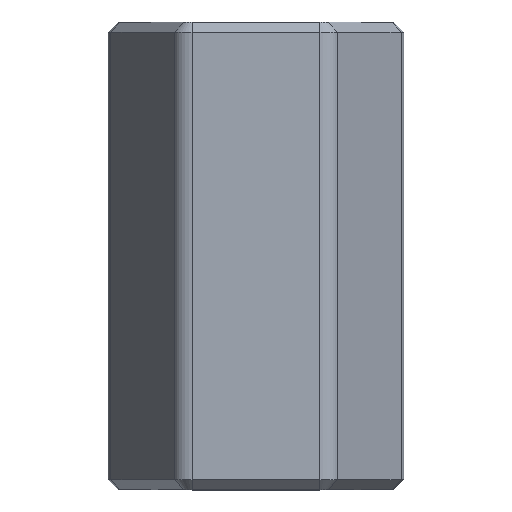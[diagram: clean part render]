
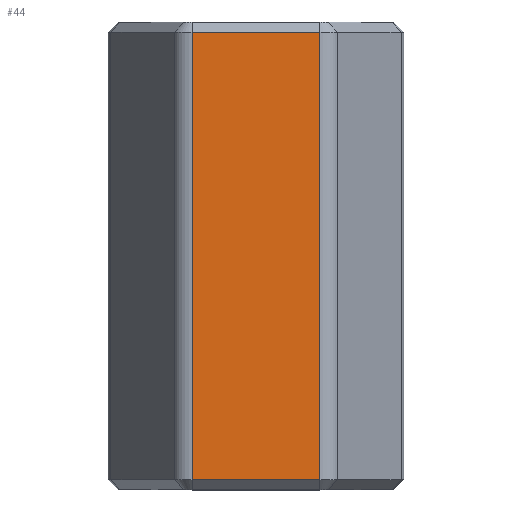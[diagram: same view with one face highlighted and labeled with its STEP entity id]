
A CAD part, top view. The second image highlights one B-rep face of the part: STEP entity #44.
In plain terms, the highlighted planar face has unit normal (0, 0, 1).
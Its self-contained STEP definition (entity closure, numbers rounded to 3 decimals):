
#44=ADVANCED_FACE('',(#135),#134,.T.);
#134=PLANE('',#643);
#135=FACE_OUTER_BOUND('',#644,.T.);
#640=CARTESIAN_POINT('',(-7.621,-3.45,13.));
#641=DIRECTION('',(0.,0.,1.));
#642=DIRECTION('',(1.,0.,0.));
#643=AXIS2_PLACEMENT_3D('',#640,#641,#642);
#644=EDGE_LOOP('',(#954,#955,#956,#957));
#954=ORIENTED_EDGE('',*,*,#1175,.T.);
#955=ORIENTED_EDGE('',*,*,#1176,.T.);
#956=ORIENTED_EDGE('',*,*,#1177,.T.);
#957=ORIENTED_EDGE('',*,*,#1178,.T.);
#1175=EDGE_CURVE('',#1423,#1424,#1425,.T.);
#1176=EDGE_CURVE('',#1424,#1431,#1432,.T.);
#1177=EDGE_CURVE('',#1431,#1390,#1438,.T.);
#1178=EDGE_CURVE('',#1390,#1423,#1444,.T.);
#1390=VERTEX_POINT('',#2086);
#1423=VERTEX_POINT('',#2105);
#1424=VERTEX_POINT('',#2106);
#1425=LINE('',#2107,#2108);
#1431=VERTEX_POINT('',#2110);
#1432=LINE('',#2111,#2112);
#1438=LINE('',#2114,#2115);
#1444=LINE('',#2117,#2118);
#2086=CARTESIAN_POINT('',(-6.351,1.,13.));
#2105=CARTESIAN_POINT('',(6.351,1.,13.));
#2106=CARTESIAN_POINT('',(6.351,45.5,13.));
#2107=CARTESIAN_POINT('',(6.351,1.,13.));
#2108=VECTOR('',#2109,44.5);
#2109=DIRECTION('',(0.,1.,0.));
#2110=CARTESIAN_POINT('',(-6.351,45.5,13.));
#2111=CARTESIAN_POINT('',(6.351,45.5,13.));
#2112=VECTOR('',#2113,12.702);
#2113=DIRECTION('',(-1.,0.,0.));
#2114=CARTESIAN_POINT('',(-6.351,45.5,13.));
#2115=VECTOR('',#2116,44.5);
#2116=DIRECTION('',(0.,-1.,0.));
#2117=CARTESIAN_POINT('',(-6.351,1.,13.));
#2118=VECTOR('',#2119,12.702);
#2119=DIRECTION('',(1.,0.,0.));
